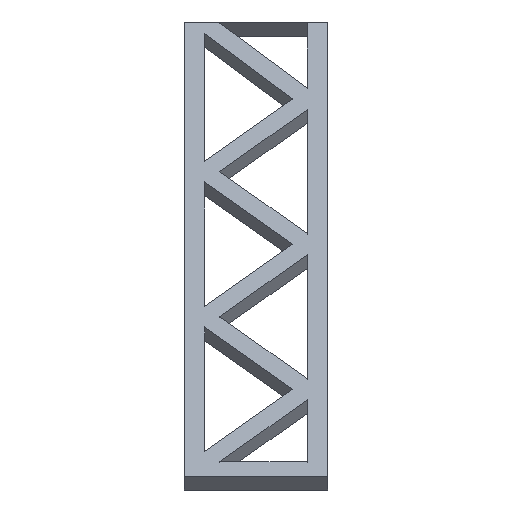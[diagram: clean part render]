
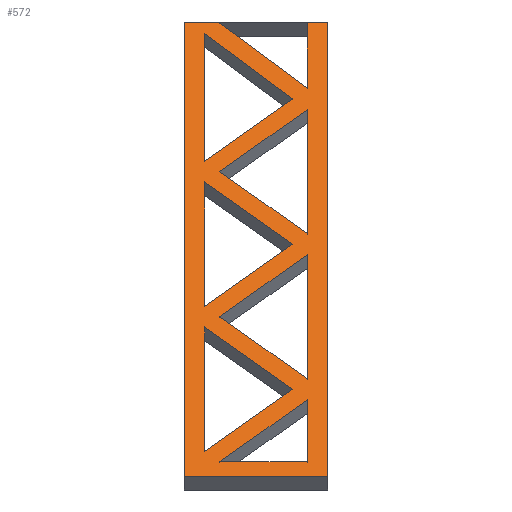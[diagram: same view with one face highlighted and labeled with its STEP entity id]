
A CAD part, left-side view. The second image highlights one B-rep face of the part: STEP entity #572.
In plain terms, the highlighted planar face has unit normal (-0.707, 0, 0.707).
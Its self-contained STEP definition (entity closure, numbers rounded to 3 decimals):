
#22=FACE_BOUND('',#87,.T.);
#23=FACE_BOUND('',#88,.T.);
#24=FACE_BOUND('',#89,.T.);
#25=FACE_BOUND('',#90,.T.);
#26=FACE_BOUND('',#91,.T.);
#27=FACE_BOUND('',#92,.T.);
#28=FACE_BOUND('',#93,.T.);
#52=FACE_OUTER_BOUND('',#86,.T.);
#86=EDGE_LOOP('',(#485,#486,#487,#488));
#87=EDGE_LOOP('',(#489,#490,#491));
#88=EDGE_LOOP('',(#492,#493,#494));
#89=EDGE_LOOP('',(#495,#496,#497));
#90=EDGE_LOOP('',(#498,#499,#500));
#91=EDGE_LOOP('',(#501,#502,#503));
#92=EDGE_LOOP('',(#504,#505,#506));
#93=EDGE_LOOP('',(#507,#508,#509));
#97=LINE('',#752,#172);
#101=LINE('',#760,#176);
#104=LINE('',#765,#179);
#106=LINE('',#770,#181);
#110=LINE('',#778,#185);
#113=LINE('',#783,#188);
#115=LINE('',#788,#190);
#119=LINE('',#796,#194);
#122=LINE('',#801,#197);
#124=LINE('',#806,#199);
#128=LINE('',#814,#203);
#131=LINE('',#819,#206);
#133=LINE('',#824,#208);
#137=LINE('',#832,#212);
#140=LINE('',#837,#215);
#142=LINE('',#842,#217);
#146=LINE('',#850,#221);
#149=LINE('',#855,#224);
#151=LINE('',#860,#226);
#155=LINE('',#868,#230);
#158=LINE('',#873,#233);
#166=LINE('',#889,#241);
#167=LINE('',#892,#242);
#168=LINE('',#894,#243);
#169=LINE('',#895,#244);
#172=VECTOR('',#621,10.);
#176=VECTOR('',#627,10.);
#179=VECTOR('',#632,10.);
#181=VECTOR('',#636,10.);
#185=VECTOR('',#642,10.);
#188=VECTOR('',#647,10.);
#190=VECTOR('',#651,10.);
#194=VECTOR('',#657,10.);
#197=VECTOR('',#662,10.);
#199=VECTOR('',#666,10.);
#203=VECTOR('',#672,10.);
#206=VECTOR('',#677,10.);
#208=VECTOR('',#681,10.);
#212=VECTOR('',#687,10.);
#215=VECTOR('',#692,10.);
#217=VECTOR('',#696,10.);
#221=VECTOR('',#702,10.);
#224=VECTOR('',#707,10.);
#226=VECTOR('',#711,10.);
#230=VECTOR('',#717,10.);
#233=VECTOR('',#722,10.);
#241=VECTOR('',#734,10.);
#242=VECTOR('',#737,10.);
#243=VECTOR('',#738,10.);
#244=VECTOR('',#739,10.);
#247=VERTEX_POINT('',#750);
#248=VERTEX_POINT('',#751);
#251=VERTEX_POINT('',#759);
#253=VERTEX_POINT('',#768);
#254=VERTEX_POINT('',#769);
#257=VERTEX_POINT('',#777);
#259=VERTEX_POINT('',#786);
#260=VERTEX_POINT('',#787);
#263=VERTEX_POINT('',#795);
#265=VERTEX_POINT('',#804);
#266=VERTEX_POINT('',#805);
#269=VERTEX_POINT('',#813);
#271=VERTEX_POINT('',#822);
#272=VERTEX_POINT('',#823);
#275=VERTEX_POINT('',#831);
#277=VERTEX_POINT('',#840);
#278=VERTEX_POINT('',#841);
#281=VERTEX_POINT('',#849);
#283=VERTEX_POINT('',#858);
#284=VERTEX_POINT('',#859);
#287=VERTEX_POINT('',#867);
#293=VERTEX_POINT('',#885);
#294=VERTEX_POINT('',#887);
#295=VERTEX_POINT('',#891);
#296=VERTEX_POINT('',#893);
#297=EDGE_CURVE('',#247,#248,#97,.T.);
#301=EDGE_CURVE('',#248,#251,#101,.T.);
#304=EDGE_CURVE('',#251,#247,#104,.T.);
#306=EDGE_CURVE('',#253,#254,#106,.T.);
#310=EDGE_CURVE('',#254,#257,#110,.T.);
#313=EDGE_CURVE('',#257,#253,#113,.T.);
#315=EDGE_CURVE('',#259,#260,#115,.T.);
#319=EDGE_CURVE('',#260,#263,#119,.T.);
#322=EDGE_CURVE('',#263,#259,#122,.T.);
#324=EDGE_CURVE('',#265,#266,#124,.T.);
#328=EDGE_CURVE('',#266,#269,#128,.T.);
#331=EDGE_CURVE('',#269,#265,#131,.T.);
#333=EDGE_CURVE('',#271,#272,#133,.T.);
#337=EDGE_CURVE('',#272,#275,#137,.T.);
#340=EDGE_CURVE('',#275,#271,#140,.T.);
#342=EDGE_CURVE('',#277,#278,#142,.T.);
#346=EDGE_CURVE('',#278,#281,#146,.T.);
#349=EDGE_CURVE('',#281,#277,#149,.T.);
#351=EDGE_CURVE('',#283,#284,#151,.T.);
#355=EDGE_CURVE('',#284,#287,#155,.T.);
#358=EDGE_CURVE('',#287,#283,#158,.T.);
#366=EDGE_CURVE('',#293,#294,#166,.T.);
#367=EDGE_CURVE('',#293,#295,#167,.T.);
#368=EDGE_CURVE('',#296,#294,#168,.T.);
#369=EDGE_CURVE('',#295,#296,#169,.T.);
#485=ORIENTED_EDGE('',*,*,#367,.F.);
#486=ORIENTED_EDGE('',*,*,#366,.T.);
#487=ORIENTED_EDGE('',*,*,#368,.F.);
#488=ORIENTED_EDGE('',*,*,#369,.F.);
#489=ORIENTED_EDGE('',*,*,#301,.T.);
#490=ORIENTED_EDGE('',*,*,#304,.T.);
#491=ORIENTED_EDGE('',*,*,#297,.T.);
#492=ORIENTED_EDGE('',*,*,#310,.T.);
#493=ORIENTED_EDGE('',*,*,#313,.T.);
#494=ORIENTED_EDGE('',*,*,#306,.T.);
#495=ORIENTED_EDGE('',*,*,#319,.T.);
#496=ORIENTED_EDGE('',*,*,#322,.T.);
#497=ORIENTED_EDGE('',*,*,#315,.T.);
#498=ORIENTED_EDGE('',*,*,#328,.T.);
#499=ORIENTED_EDGE('',*,*,#331,.T.);
#500=ORIENTED_EDGE('',*,*,#324,.T.);
#501=ORIENTED_EDGE('',*,*,#337,.T.);
#502=ORIENTED_EDGE('',*,*,#340,.T.);
#503=ORIENTED_EDGE('',*,*,#333,.T.);
#504=ORIENTED_EDGE('',*,*,#346,.T.);
#505=ORIENTED_EDGE('',*,*,#349,.T.);
#506=ORIENTED_EDGE('',*,*,#342,.T.);
#507=ORIENTED_EDGE('',*,*,#355,.T.);
#508=ORIENTED_EDGE('',*,*,#358,.T.);
#509=ORIENTED_EDGE('',*,*,#351,.T.);
#545=PLANE('',#613);
#572=ADVANCED_FACE('',(#52,#22,#23,#24,#25,#26,#27,#28),#545,.T.);
#613=AXIS2_PLACEMENT_3D('',#890,#735,#736);
#621=DIRECTION('',(0.5,-0.707,0.5));
#627=DIRECTION('',(-0.707,0.,-0.707));
#632=DIRECTION('',(0.5,0.707,0.5));
#636=DIRECTION('',(-0.707,0.,-0.707));
#642=DIRECTION('',(0.512,0.689,0.512));
#647=DIRECTION('',(0.,-1.,0.));
#651=DIRECTION('',(0.707,0.,0.707));
#657=DIRECTION('',(-0.5,-0.707,-0.5));
#662=DIRECTION('',(-0.5,0.707,-0.5));
#666=DIRECTION('',(0.707,0.,0.707));
#672=DIRECTION('',(-0.5,-0.707,-0.5));
#677=DIRECTION('',(-0.5,0.707,-0.5));
#681=DIRECTION('',(0.707,0.,0.707));
#687=DIRECTION('',(-0.512,-0.689,-0.512));
#692=DIRECTION('',(-0.5,0.707,-0.5));
#696=DIRECTION('',(0.5,-0.707,0.5));
#702=DIRECTION('',(-0.707,0.,-0.707));
#707=DIRECTION('',(0.5,0.707,0.5));
#711=DIRECTION('',(0.,1.,0.));
#717=DIRECTION('',(0.5,-0.707,0.5));
#722=DIRECTION('',(-0.707,0.,-0.707));
#734=DIRECTION('',(0.,-1.,0.));
#735=DIRECTION('center_axis',(-0.707,0.,0.707));
#736=DIRECTION('ref_axis',(-0.707,0.,-0.707));
#737=DIRECTION('',(0.707,0.,0.707));
#738=DIRECTION('',(-0.707,0.,-0.707));
#739=DIRECTION('',(0.,-1.,0.));
#750=CARTESIAN_POINT('',(124.485,-25.978,-155.566));
#751=CARTESIAN_POINT('',(133.551,-38.8,-146.499));
#752=CARTESIAN_POINT('',(138.874,-46.328,-141.176));
#759=CARTESIAN_POINT('',(115.418,-38.8,-164.632));
#760=CARTESIAN_POINT('',(141.495,-38.8,-138.555));
#765=CARTESIAN_POINT('',(136.172,-9.45,-143.879));
#768=CARTESIAN_POINT('',(167.451,-38.8,-112.6));
#769=CARTESIAN_POINT('',(157.884,-38.8,-122.166));
#770=CARTESIAN_POINT('',(162.728,-38.8,-117.322));
#777=CARTESIAN_POINT('',(167.451,-25.926,-112.6));
#778=CARTESIAN_POINT('',(168.388,-24.665,-111.663));
#783=CARTESIAN_POINT('',(167.451,-29.8,-112.6));
#786=CARTESIAN_POINT('',(125.985,-23.8,-154.066));
#787=CARTESIAN_POINT('',(144.198,-23.8,-135.853));
#788=CARTESIAN_POINT('',(155.885,-23.8,-124.166));
#795=CARTESIAN_POINT('',(135.091,-36.679,-144.959));
#796=CARTESIAN_POINT('',(146.018,-21.225,-134.032));
#801=CARTESIAN_POINT('',(135.851,-37.753,-144.199));
#804=CARTESIAN_POINT('',(104.771,-23.8,-175.279));
#805=CARTESIAN_POINT('',(122.985,-23.8,-157.066));
#806=CARTESIAN_POINT('',(145.278,-23.8,-134.772));
#813=CARTESIAN_POINT('',(113.878,-36.679,-166.172));
#814=CARTESIAN_POINT('',(130.108,-13.725,-149.942));
#819=CARTESIAN_POINT('',(119.941,-45.253,-160.109));
#822=CARTESIAN_POINT('',(147.198,-23.8,-132.853));
#823=CARTESIAN_POINT('',(165.912,-23.8,-114.138));
#824=CARTESIAN_POINT('',(166.742,-23.8,-113.308));
#831=CARTESIAN_POINT('',(156.323,-36.705,-123.728));
#832=CARTESIAN_POINT('',(162.083,-28.953,-117.968));
#837=CARTESIAN_POINT('',(151.761,-30.253,-128.289));
#840=CARTESIAN_POINT('',(145.698,-25.978,-134.353));
#841=CARTESIAN_POINT('',(154.764,-38.8,-125.286));
#842=CARTESIAN_POINT('',(154.784,-38.828,-125.266));
#849=CARTESIAN_POINT('',(136.631,-38.8,-143.419));
#850=CARTESIAN_POINT('',(152.102,-38.8,-127.949));
#855=CARTESIAN_POINT('',(152.082,-16.95,-127.969));
#858=CARTESIAN_POINT('',(103.271,-38.8,-176.779));
#859=CARTESIAN_POINT('',(103.271,-25.978,-176.779));
#860=CARTESIAN_POINT('',(103.271,-23.389,-176.779));
#867=CARTESIAN_POINT('',(112.338,-38.8,-167.712));
#868=CARTESIAN_POINT('',(122.964,-53.828,-157.086));
#873=CARTESIAN_POINT('',(135.422,-38.8,-144.629));
#885=CARTESIAN_POINT('',(101.15,-20.8,-178.9));
#887=CARTESIAN_POINT('',(101.15,-41.8,-178.9));
#889=CARTESIAN_POINT('',(101.15,-20.8,-178.9));
#890=CARTESIAN_POINT('Origin',(167.572,-20.8,-112.478));
#891=CARTESIAN_POINT('',(167.572,-20.8,-112.478));
#892=CARTESIAN_POINT('',(99.15,-20.8,-180.9));
#893=CARTESIAN_POINT('',(167.572,-41.8,-112.478));
#894=CARTESIAN_POINT('',(99.15,-41.8,-180.9));
#895=CARTESIAN_POINT('',(167.572,-20.8,-112.478));
